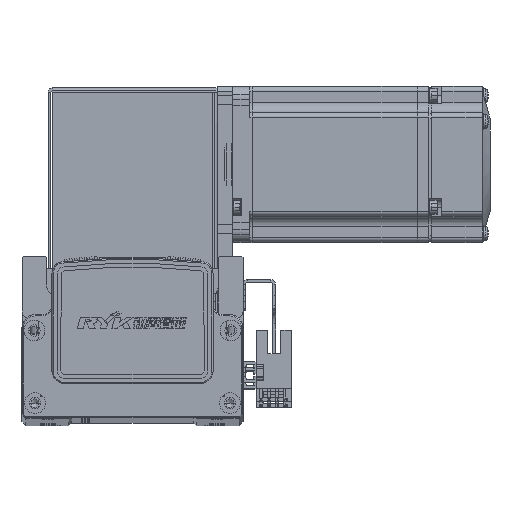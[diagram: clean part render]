
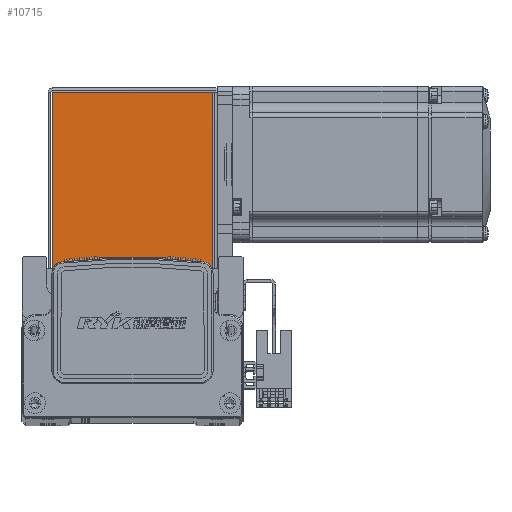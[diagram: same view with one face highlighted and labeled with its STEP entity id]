
A CAD part, top view. The second image highlights one B-rep face of the part: STEP entity #10715.
In plain terms, the highlighted planar face has unit normal (0, 0, 1) as drawn and (0, 0, -1) by its records, which use the part's own axes.
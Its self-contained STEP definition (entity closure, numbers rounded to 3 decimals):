
#7514 = VECTOR ( 'NONE', #68903, 1000. ) ;
#7521 = LINE ( 'NONE', #68901, #7514 ) ;
#7601 = VECTOR ( 'NONE', #69075, 1000. ) ;
#7638 = LINE ( 'NONE', #69074, #7601 ) ;
#7650 = LINE ( 'NONE', #69115, #7651 ) ;
#7651 = VECTOR ( 'NONE', #69091, 1000. ) ;
#7652 = VECTOR ( 'NONE', #69092, 1000. ) ;
#7673 = LINE ( 'NONE', #69088, #7652 ) ;
#8814 = EDGE_CURVE ( 'NONE', #57745, #57773, #7521, .T. ) ;
#8881 = EDGE_CURVE ( 'NONE', #57745, #57695, #7638, .T. ) ;
#8909 = EDGE_CURVE ( 'NONE', #57695, #57865, #7650, .T. ) ;
#8912 = EDGE_CURVE ( 'NONE', #57865, #57773, #7673, .T. ) ;
#10715 = ADVANCED_FACE ( 'NONE', ( #18503 ), #76955, .F. ) ;
#18503 = FACE_OUTER_BOUND ( 'NONE', #60885, .T. ) ;
#38555 = CARTESIAN_POINT ( 'NONE',  ( 30.763, 0.737, -35. ) ) ;
#38558 = CARTESIAN_POINT ( 'NONE',  ( -30.793, 0.737, -35. ) ) ;
#38573 = CARTESIAN_POINT ( 'NONE',  ( -30.793, 68.5, -35. ) ) ;
#38610 = CARTESIAN_POINT ( 'NONE',  ( 30.763, 68.5, -35. ) ) ;
#46916 = AXIS2_PLACEMENT_3D ( 'NONE', #76979, #76936, #76953 ) ;
#57695 = VERTEX_POINT ( 'NONE', #38573 ) ;
#57745 = VERTEX_POINT ( 'NONE', #38558 ) ;
#57773 = VERTEX_POINT ( 'NONE', #38555 ) ;
#57865 = VERTEX_POINT ( 'NONE', #38610 ) ;
#60885 = EDGE_LOOP ( 'NONE', ( #62826, #62885, #62792, #62832 ) ) ;
#62792 = ORIENTED_EDGE ( 'NONE', *, *, #8881, .T. ) ;
#62826 = ORIENTED_EDGE ( 'NONE', *, *, #8912, .T. ) ;
#62832 = ORIENTED_EDGE ( 'NONE', *, *, #8909, .T. ) ;
#62885 = ORIENTED_EDGE ( 'NONE', *, *, #8814, .F. ) ;
#68901 = CARTESIAN_POINT ( 'NONE',  ( 32.5, 0.737, -35. ) ) ;
#68903 = DIRECTION ( 'NONE',  ( 1., 0., 0. ) ) ;
#69074 = CARTESIAN_POINT ( 'NONE',  ( -30.793, 0., -35. ) ) ;
#69075 = DIRECTION ( 'NONE',  ( 0., 1., 0. ) ) ;
#69088 = CARTESIAN_POINT ( 'NONE',  ( 30.763, 68.5, -35. ) ) ;
#69091 = DIRECTION ( 'NONE',  ( 1., 0., 0. ) ) ;
#69092 = DIRECTION ( 'NONE',  ( 0., -1., 0. ) ) ;
#69115 = CARTESIAN_POINT ( 'NONE',  ( 0., 68.5, -35. ) ) ;
#76936 = DIRECTION ( 'NONE',  ( 0., 0., 1. ) ) ;
#76953 = DIRECTION ( 'NONE',  ( 0., -1., 0. ) ) ;
#76955 = PLANE ( 'NONE',  #46916 ) ;
#76979 = CARTESIAN_POINT ( 'NONE',  ( 0., 0., -35. ) ) ;
